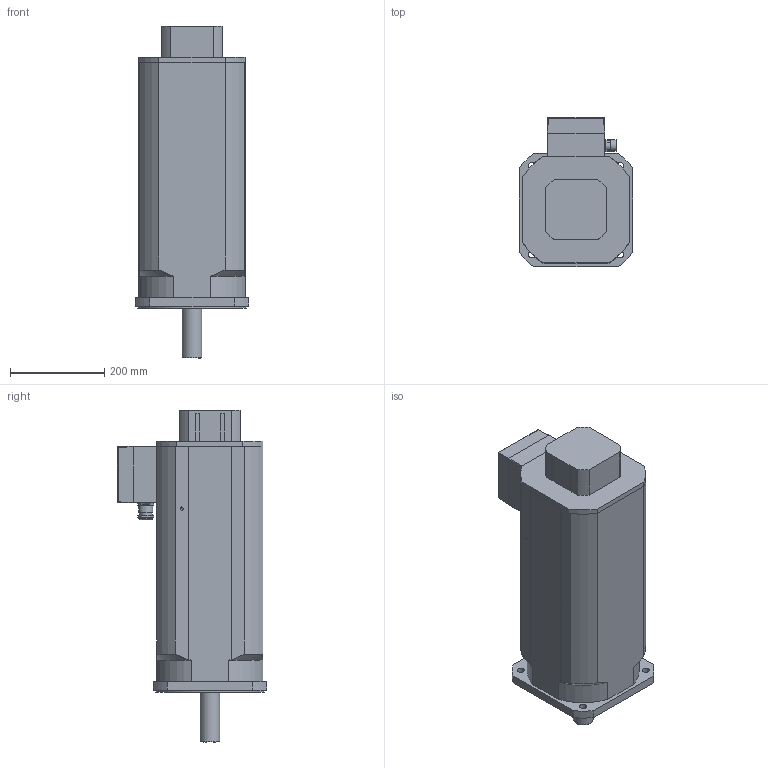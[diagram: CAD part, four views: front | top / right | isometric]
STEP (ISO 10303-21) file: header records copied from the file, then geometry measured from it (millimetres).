
FILE_DESCRIPTION(/* description */ ('Alibre Inc.'),/* implementation_level */ '2;1');
FILE_NAME(/* name */ 'export0',/* time_stamp */ '2011-11-01T08:37:07+01:00',/* author */ (''),/* organization */ (''),/* preprocessor_version */ 'ST-DEVELOPER v12',/* originating_system */ 'Alibre',/* authorisation */ '');
FILE_SCHEMA (('CONFIG_CONTROL_DESIGN'));
Length unit declared in the file: millimetre
Products named in the file (8): ID_1
Bounding box: 240 x 316 x 704 mm (x, y, z)
Volume: 27392449.7 mm3; surface area: 806918.1 mm2
Topology: 7 solids, 7 shells, 232 faces, 585 edges, 375 vertices
Faces by surface type: plane 120, cylinder 82, torus 15, cone 11, bspline 4
Full cylindrical faces by diameter (mm): 2.7 x4, 6.647 x3, 10.106 x1, 15 x5, 20 x4, 24 x1, 25 x2, 26.75 x1, 30 x2, 42 x1, 45 x1, 230 x1
Entity records: 8307 total; most frequent: CARTESIAN_POINT 2236, ORIENTED_EDGE 1060, DIRECTION 1032, EDGE_CURVE 530, AXIS2_PLACEMENT_3D 450, VERTEX_POINT 360, EDGE_LOOP 300, FACE_BOUND 300
